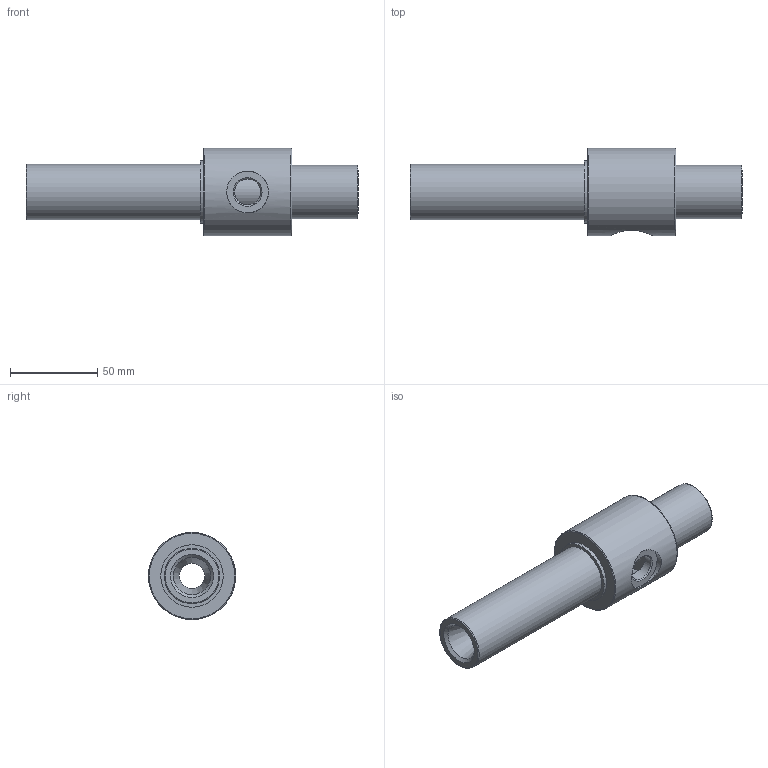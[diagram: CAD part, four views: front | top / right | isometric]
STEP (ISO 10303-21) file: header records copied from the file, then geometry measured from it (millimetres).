
FILE_DESCRIPTION( ( 'STEP AP203' ), '1' );
FILE_NAME( 'C:/Documents and Settings/Owner/官帕 拳搁/3D/Vacuum Pump/Conveying Pump/VTRF/VTRF-7.stp', '2006-04-25T05:44:00', ( ' ' ), ( ' ' ), 'XStep 1.0', ' ', ' ' );
FILE_SCHEMA( ( 'CONFIG_CONTROL_DESIGN) ( )' ) );
Length unit declared in the file: metre
Products named in the file (1): 1
Bounding box: 190.4 x 50 x 50 mm (x, y, z)
Volume: 160351.6 mm3; surface area: 38910.3 mm2
Topology: 1 solids, 1 shells, 26 faces, 46 edges, 28 vertices
Faces by surface type: cylinder 9, plane 8, cone 5, torus 4
Full cylindrical faces by diameter (mm): 14.4 x1, 15 x1, 21.457 x1, 24 x1, 30.6 x1, 31.8 x1, 33 x1, 35.8 x1, 50 x1
Entity records: 770 total; most frequent: CARTESIAN_POINT 271, DIRECTION 104, EDGE_LOOP 54, ORIENTED_EDGE 54, AXIS2_PLACEMENT_3D 52, FACE_OUTER_BOUND 39, EDGE_CURVE 27, VERTEX_POINT 27
